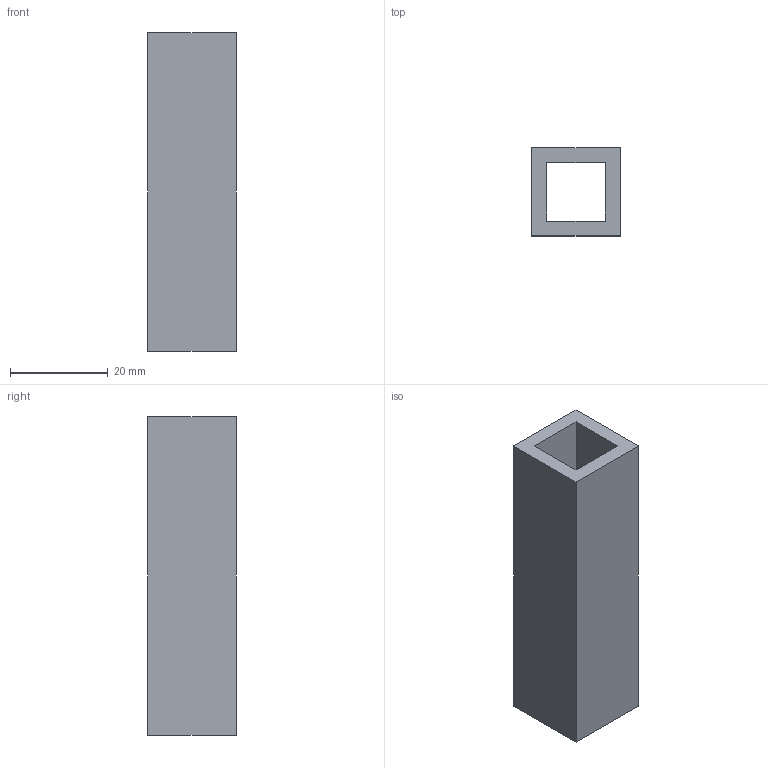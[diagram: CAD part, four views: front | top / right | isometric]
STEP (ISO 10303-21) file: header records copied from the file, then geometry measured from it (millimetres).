
FILE_DESCRIPTION(('Open CASCADE Model'),'2;1');
FILE_NAME('Open CASCADE Shape Model','2026-10-04T02:31:38',('Author'),( 'Open CASCADE'),'Open CASCADE STEP processor 8.0','Open CASCADE 8.0' ,'Unknown');
FILE_SCHEMA(('AUTOMOTIVE_DESIGN { 1 0 10303 214 1 1 1 1 }'));
Length unit declared in the file: millimetre
Products named in the file (1): Open CASCADE STEP translator 8.0 134
Bounding box: 18 x 18 x 65 mm (x, y, z)
Volume: 11700 mm3; surface area: 8160 mm2
Topology: 1 solids, 1 shells, 10 faces, 24 edges, 16 vertices
Faces by surface type: plane 10
Entity records: 598 total; most frequent: CARTESIAN_POINT 115, DIRECTION 78, LINE 56, VECTOR 56, ORIENTED_EDGE 48, PCURVE 48, DEFINITIONAL_REPRESENTATION 48, EDGE_CURVE 24
